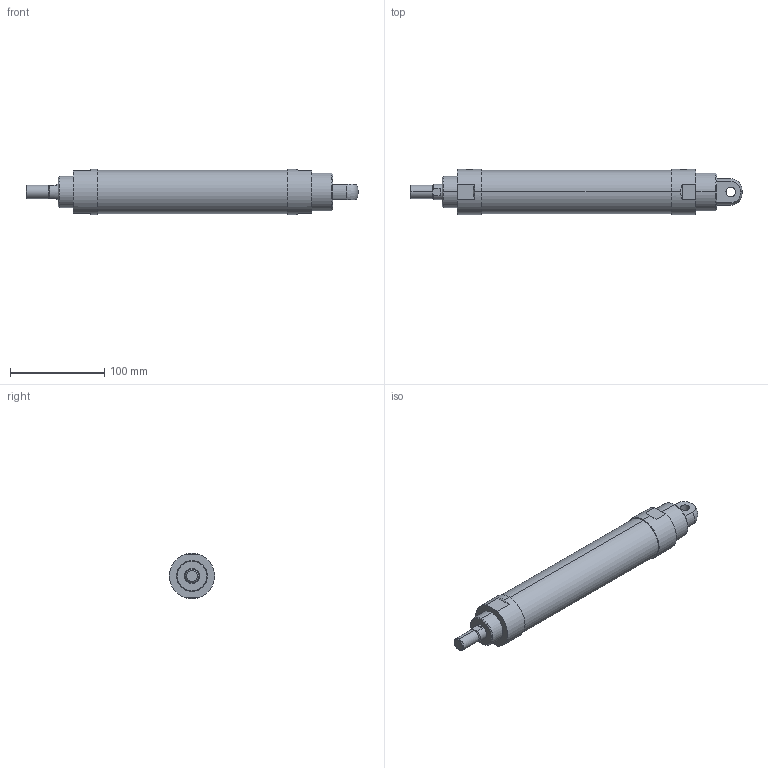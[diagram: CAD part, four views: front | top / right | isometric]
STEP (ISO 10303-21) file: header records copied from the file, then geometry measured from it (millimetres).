
FILE_DESCRIPTION (( 'STEP AP203' ), '1' );
FILE_NAME ('J#2-40-150-C.STEP', '2016-03-08T08:01:47', ( '' ), ( '' ), 'SwSTEP 2.0', 'SolidWorks 2014', '' );
FILE_SCHEMA (( 'CONFIG_CONTROL_DESIGN' ));
Length unit declared in the file: millimetre
Products named in the file (1): J#2-40-150-C
Bounding box: 352 x 48 x 48 mm (x, y, z)
Volume: 480073.8 mm3; surface area: 49922.1 mm2
Topology: 1 solids, 1 shells, 59 faces, 138 edges, 85 vertices
Faces by surface type: cylinder 22, plane 20, cone 15, torus 2
Entity records: 1988 total; most frequent: CARTESIAN_POINT 566, DIRECTION 293, ORIENTED_EDGE 268, EDGE_CURVE 134, AXIS2_PLACEMENT_3D 118, VERTEX_POINT 85, EDGE_LOOP 69, FACE_OUTER_BOUND 59
